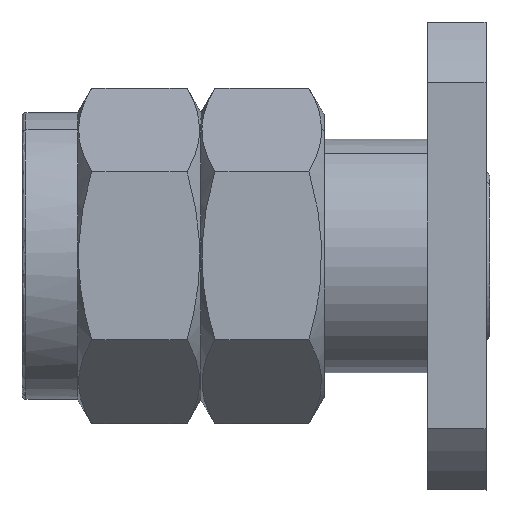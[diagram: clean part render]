
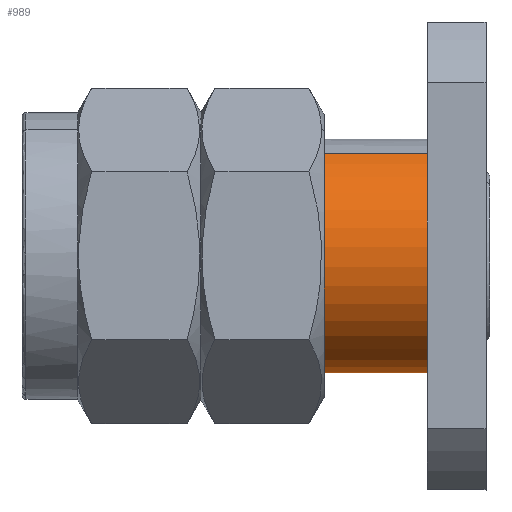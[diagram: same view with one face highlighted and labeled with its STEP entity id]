
A CAD part, top view. The second image highlights one B-rep face of the part: STEP entity #989.
In plain terms, the highlighted cylindrical face has radius 3.175 mm (diameter 6.35 mm), a partial arc.
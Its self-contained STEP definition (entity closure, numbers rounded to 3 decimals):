
#356=CARTESIAN_POINT('Control Point',(11.,2.786,1.522)) ;
#357=CARTESIAN_POINT('Control Point',(11.,2.619,1.829)) ;
#358=CARTESIAN_POINT('Control Point',(11.,2.409,2.112)) ;
#359=CARTESIAN_POINT('Control Point',(11.,2.162,2.365)) ;
#360=CARTESIAN_POINT('Control Point',(11.,1.604,2.796)) ;
#361=CARTESIAN_POINT('Control Point',(11.,0.951,3.06)) ;
#362=CARTESIAN_POINT('Control Point',(11.,0.608,3.146)) ;
#363=CARTESIAN_POINT('Control Point',(11.,-0.093,3.222)) ;
#364=CARTESIAN_POINT('Control Point',(11.,-0.789,3.105)) ;
#365=CARTESIAN_POINT('Control Point',(11.,-1.126,3.)) ;
#366=CARTESIAN_POINT('Control Point',(11.,-1.763,2.698)) ;
#367=CARTESIAN_POINT('Control Point',(11.,-2.295,2.236)) ;
#368=CARTESIAN_POINT('Control Point',(11.,-2.528,1.969)) ;
#369=CARTESIAN_POINT('Control Point',(11.,-2.913,1.379)) ;
#370=CARTESIAN_POINT('Control Point',(11.,-3.125,0.707)) ;
#371=CARTESIAN_POINT('Control Point',(11.,-3.184,0.358)) ;
#372=CARTESIAN_POINT('Control Point',(11.,-3.201,-0.246)) ;
#373=CARTESIAN_POINT('Control Point',(11.,-3.079,-0.834)) ;
#374=CARTESIAN_POINT('Control Point',(11.,-3.004,-1.073)) ;
#375=CARTESIAN_POINT('Control Point',(11.,-2.906,-1.304)) ;
#376=CARTESIAN_POINT('Control Point',(11.,-2.786,-1.522)) ;
#377=CARTESIAN_POINT('Vertex',(11.,2.786,1.522)) ;
#379=CARTESIAN_POINT('Vertex',(11.,-2.786,-1.522)) ;
#947=CARTESIAN_POINT('Axis2P3D Location',(5.532,0.,0.)) ;
#952=CARTESIAN_POINT('Line Origine',(5.532,-2.786,-1.522)) ;
#956=CARTESIAN_POINT('Vertex',(8.2,-2.786,-1.522)) ;
#959=CARTESIAN_POINT('Line Origine',(5.532,2.786,1.522)) ;
#963=CARTESIAN_POINT('Vertex',(8.2,2.786,1.522)) ;
#967=CARTESIAN_POINT('Control Point',(8.2,2.786,1.522)) ;
#968=CARTESIAN_POINT('Control Point',(8.2,2.547,1.96)) ;
#969=CARTESIAN_POINT('Control Point',(8.2,2.222,2.351)) ;
#970=CARTESIAN_POINT('Control Point',(8.2,1.823,2.672)) ;
#971=CARTESIAN_POINT('Control Point',(8.2,0.921,3.141)) ;
#972=CARTESIAN_POINT('Control Point',(8.2,-0.091,3.233)) ;
#973=CARTESIAN_POINT('Control Point',(8.2,-0.6,3.179)) ;
#974=CARTESIAN_POINT('Control Point',(8.2,-1.569,2.872)) ;
#975=CARTESIAN_POINT('Control Point',(8.2,-2.351,2.222)) ;
#976=CARTESIAN_POINT('Control Point',(8.2,-2.672,1.823)) ;
#977=CARTESIAN_POINT('Control Point',(8.2,-3.141,0.921)) ;
#978=CARTESIAN_POINT('Control Point',(8.2,-3.233,-0.091)) ;
#979=CARTESIAN_POINT('Control Point',(8.2,-3.179,-0.6)) ;
#980=CARTESIAN_POINT('Control Point',(8.2,-3.025,-1.085)) ;
#981=CARTESIAN_POINT('Control Point',(8.2,-2.786,-1.522)) ;
#948=DIRECTION('Axis2P3D Direction',(1.,0.,0.)) ;
#949=DIRECTION('Axis2P3D XDirection',(0.,0.878,0.479)) ;
#953=DIRECTION('Vector Direction',(1.,0.,0.)) ;
#960=DIRECTION('Vector Direction',(1.,0.,0.)) ;
#950=AXIS2_PLACEMENT_3D('Cylinder Axis2P3D',#947,#948,#949) ;
#984=ORIENTED_EDGE('',*,*,#958,.T.) ;
#985=ORIENTED_EDGE('',*,*,#381,.F.) ;
#986=ORIENTED_EDGE('',*,*,#965,.F.) ;
#987=ORIENTED_EDGE('',*,*,#982,.T.) ;
#954=VECTOR('Line Direction',#953,1.) ;
#961=VECTOR('Line Direction',#960,1.) ;
#989=ADVANCED_FACE('',(#988),#951,.T.) ;
#355=B_SPLINE_CURVE_WITH_KNOTS('',5,(#356,#357,#358,#359,#360,#361,#362,#363,#364,#365,#366,#367,#368,#369,#370,#371,#372,#373,#374,#375,#376),.UNSPECIFIED.,.F.,.U.,(6,3,3,3,3,3,6),(0.,2.469,4.938,7.407,9.876,12.345,14.106),.UNSPECIFIED.) ;
#966=B_SPLINE_CURVE_WITH_KNOTS('',5,(#967,#968,#969,#970,#971,#972,#973,#974,#975,#976,#977,#978,#979,#980,#981),.UNSPECIFIED.,.F.,.U.,(6,3,3,3,6),(-4.987,-2.494,0.,2.494,4.987),.UNSPECIFIED.) ;
#951=CYLINDRICAL_SURFACE('generated cylinder',#950,3.175) ;
#381=EDGE_CURVE('',#378,#380,#355,.T.) ;
#958=EDGE_CURVE('',#957,#380,#955,.T.) ;
#965=EDGE_CURVE('',#964,#378,#962,.T.) ;
#982=EDGE_CURVE('',#964,#957,#966,.T.) ;
#983=EDGE_LOOP('',(#984,#985,#986,#987)) ;
#988=FACE_OUTER_BOUND('',#983,.T.) ;
#955=LINE('Line',#952,#954) ;
#962=LINE('Line',#959,#961) ;
#378=VERTEX_POINT('',#377) ;
#380=VERTEX_POINT('',#379) ;
#957=VERTEX_POINT('',#956) ;
#964=VERTEX_POINT('',#963) ;
